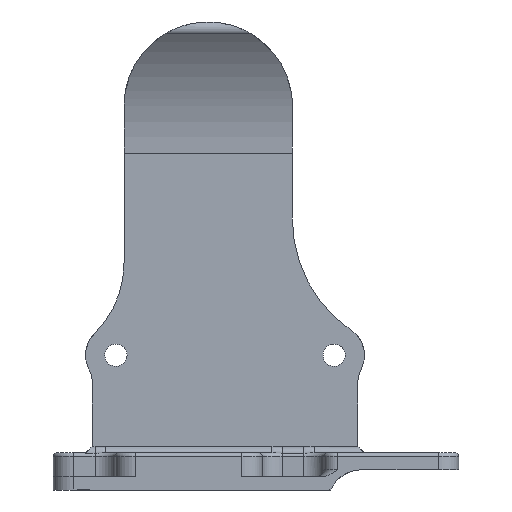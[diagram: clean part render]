
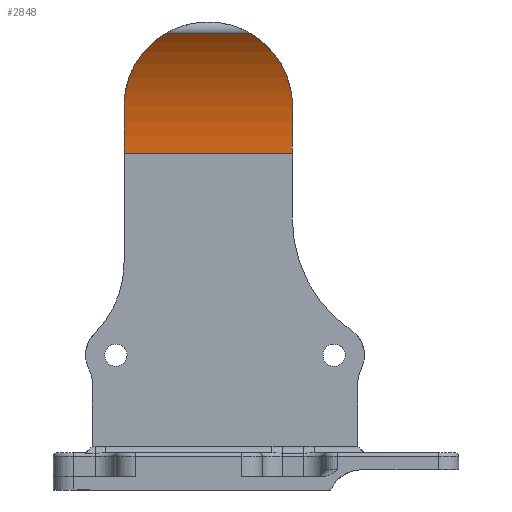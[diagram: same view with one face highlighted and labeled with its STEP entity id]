
A CAD part, left-side view. The second image highlights one B-rep face of the part: STEP entity #2848.
In plain terms, the highlighted cylindrical face has radius 27.6 mm (diameter 55.2 mm), a partial arc.
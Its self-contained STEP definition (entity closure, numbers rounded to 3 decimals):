
#2413=AXIS2_PLACEMENT_3D('Circle Axis2P3D',#2411,#2412,$) ;
#2584=AXIS2_PLACEMENT_3D('Circle Axis2P3D',#2582,#2583,$) ;
#2813=AXIS2_PLACEMENT_3D('Cylinder Axis2P3D',#2810,#2811,#2812) ;
#2212=CARTESIAN_POINT('Line Origine',(-10.85,-2.9,50.)) ;
#2216=CARTESIAN_POINT('Vertex',(-10.85,9.6,50.)) ;
#2218=CARTESIAN_POINT('Vertex',(-10.85,-15.4,50.)) ;
#2408=CARTESIAN_POINT('Vertex',(-11.752,-15.4,57.)) ;
#2411=CARTESIAN_POINT('Axis2P3D Location',(-38.45,-15.4,50.)) ;
#2582=CARTESIAN_POINT('Axis2P3D Location',(-38.45,9.6,50.)) ;
#2586=CARTESIAN_POINT('Vertex',(-11.752,9.6,57.)) ;
#2810=CARTESIAN_POINT('Axis2P3D Location',(-38.45,0.,50.)) ;
#2815=CARTESIAN_POINT('Line Origine',(-17.297,0.,67.729)) ;
#2819=CARTESIAN_POINT('Vertex',(-17.297,3.514,67.729)) ;
#2821=CARTESIAN_POINT('Vertex',(-17.297,-9.314,67.729)) ;
#2825=CARTESIAN_POINT('Control Point',(-17.297,3.514,67.729)) ;
#2826=CARTESIAN_POINT('Control Point',(-16.186,5.732,66.403)) ;
#2827=CARTESIAN_POINT('Control Point',(-14.825,7.505,64.561)) ;
#2828=CARTESIAN_POINT('Control Point',(-13.534,8.851,62.355)) ;
#2829=CARTESIAN_POINT('Control Point',(-12.466,9.6,59.721)) ;
#2830=CARTESIAN_POINT('Control Point',(-11.752,9.6,57.)) ;
#2833=CARTESIAN_POINT('Control Point',(-17.297,-9.314,67.729)) ;
#2834=CARTESIAN_POINT('Control Point',(-16.186,-11.532,66.403)) ;
#2835=CARTESIAN_POINT('Control Point',(-14.825,-13.305,64.561)) ;
#2836=CARTESIAN_POINT('Control Point',(-13.534,-14.651,62.355)) ;
#2837=CARTESIAN_POINT('Control Point',(-12.466,-15.4,59.721)) ;
#2838=CARTESIAN_POINT('Control Point',(-11.752,-15.4,57.)) ;
#2213=DIRECTION('Vector Direction',(0.,-1.,0.)) ;
#2412=DIRECTION('Axis2P3D Direction',(0.,-1.,0.)) ;
#2583=DIRECTION('Axis2P3D Direction',(0.,-1.,0.)) ;
#2811=DIRECTION('Axis2P3D Direction',(0.,1.,0.)) ;
#2812=DIRECTION('Axis2P3D XDirection',(0.766,0.,0.642)) ;
#2816=DIRECTION('Vector Direction',(0.,1.,0.)) ;
#2214=VECTOR('Line Direction',#2213,1.) ;
#2817=VECTOR('Line Direction',#2816,1.) ;
#2841=ORIENTED_EDGE('',*,*,#2823,.F.) ;
#2842=ORIENTED_EDGE('',*,*,#2831,.T.) ;
#2843=ORIENTED_EDGE('',*,*,#2588,.F.) ;
#2844=ORIENTED_EDGE('',*,*,#2220,.T.) ;
#2845=ORIENTED_EDGE('',*,*,#2415,.T.) ;
#2846=ORIENTED_EDGE('',*,*,#2839,.F.) ;
#2848=ADVANCED_FACE('Nut',(#2847),#2814,.F.) ;
#2824=B_SPLINE_CURVE_WITH_KNOTS('',5,(#2825,#2826,#2827,#2828,#2829,#2830),.UNSPECIFIED.,.F.,.U.,(6,6),(0.,19.89),.UNSPECIFIED.) ;
#2832=B_SPLINE_CURVE_WITH_KNOTS('',5,(#2833,#2834,#2835,#2836,#2837,#2838),.UNSPECIFIED.,.F.,.U.,(6,6),(0.,19.89),.UNSPECIFIED.) ;
#2414=CIRCLE('generated circle',#2413,27.6) ;
#2585=CIRCLE('generated circle',#2584,27.6) ;
#2814=CYLINDRICAL_SURFACE('generated cylinder',#2813,27.6) ;
#2220=EDGE_CURVE('',#2217,#2219,#2215,.T.) ;
#2415=EDGE_CURVE('',#2219,#2409,#2414,.T.) ;
#2588=EDGE_CURVE('',#2217,#2587,#2585,.T.) ;
#2823=EDGE_CURVE('',#2820,#2822,#2818,.F.) ;
#2831=EDGE_CURVE('',#2820,#2587,#2824,.T.) ;
#2839=EDGE_CURVE('',#2822,#2409,#2832,.T.) ;
#2840=EDGE_LOOP('',(#2841,#2842,#2843,#2844,#2845,#2846)) ;
#2847=FACE_OUTER_BOUND('',#2840,.T.) ;
#2215=LINE('Line',#2212,#2214) ;
#2818=LINE('Line',#2815,#2817) ;
#2217=VERTEX_POINT('',#2216) ;
#2219=VERTEX_POINT('',#2218) ;
#2409=VERTEX_POINT('',#2408) ;
#2587=VERTEX_POINT('',#2586) ;
#2820=VERTEX_POINT('',#2819) ;
#2822=VERTEX_POINT('',#2821) ;
